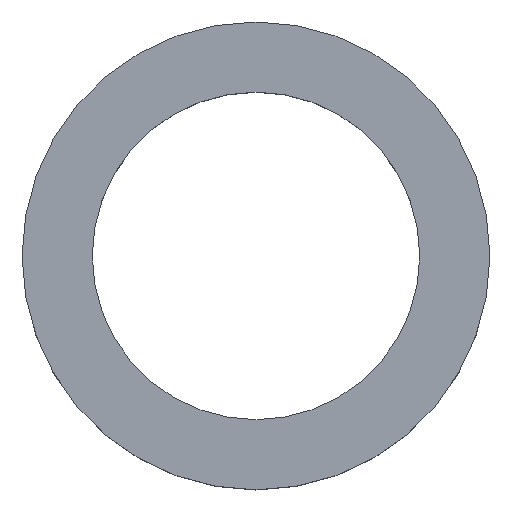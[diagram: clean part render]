
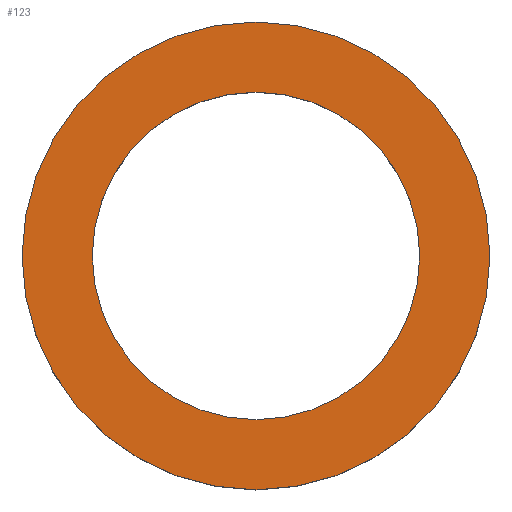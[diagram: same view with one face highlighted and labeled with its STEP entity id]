
A CAD part, top view. The second image highlights one B-rep face of the part: STEP entity #123.
In plain terms, the highlighted planar face has unit normal (0, 0, 1).
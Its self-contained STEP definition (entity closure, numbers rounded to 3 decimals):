
#39 = EDGE_CURVE('',#40,#40,#42,.T.);
#40 = VERTEX_POINT('',#41);
#41 = CARTESIAN_POINT('',(6.,0.,1.3));
#42 = SURFACE_CURVE('',#43,(#48,#60),.PCURVE_S1.);
#43 = CIRCLE('',#44,6.);
#44 = AXIS2_PLACEMENT_3D('',#45,#46,#47);
#45 = CARTESIAN_POINT('',(0.,0.,1.3));
#46 = DIRECTION('',(0.,0.,1.));
#47 = DIRECTION('',(1.,0.,-0.));
#48 = PCURVE('',#49,#54);
#49 = CYLINDRICAL_SURFACE('',#50,6.);
#50 = AXIS2_PLACEMENT_3D('',#51,#52,#53);
#51 = CARTESIAN_POINT('',(0.,0.,-1.3));
#52 = DIRECTION('',(0.,0.,1.));
#53 = DIRECTION('',(1.,0.,-0.));
#54 = DEFINITIONAL_REPRESENTATION('',(#55),#59);
#55 = LINE('',#56,#57);
#56 = CARTESIAN_POINT('',(0.,2.6));
#57 = VECTOR('',#58,1.);
#58 = DIRECTION('',(1.,0.));
#59 = ( GEOMETRIC_REPRESENTATION_CONTEXT(2) 
PARAMETRIC_REPRESENTATION_CONTEXT() REPRESENTATION_CONTEXT('2D SPACE',''
  ) );
#60 = PCURVE('',#61,#66);
#61 = PLANE('',#62);
#62 = AXIS2_PLACEMENT_3D('',#63,#64,#65);
#63 = CARTESIAN_POINT('',(0.,0.,1.3));
#64 = DIRECTION('',(0.,0.,1.));
#65 = DIRECTION('',(1.,0.,-0.));
#66 = DEFINITIONAL_REPRESENTATION('',(#67),#71);
#67 = CIRCLE('',#68,6.);
#68 = AXIS2_PLACEMENT_2D('',#69,#70);
#69 = CARTESIAN_POINT('',(0.,0.));
#70 = DIRECTION('',(1.,0.));
#71 = ( GEOMETRIC_REPRESENTATION_CONTEXT(2) 
PARAMETRIC_REPRESENTATION_CONTEXT() REPRESENTATION_CONTEXT('2D SPACE',''
  ) );
#123 = ADVANCED_FACE('',(#124,#127),#61,.T.);
#124 = FACE_BOUND('',#125,.T.);
#125 = EDGE_LOOP('',(#126));
#126 = ORIENTED_EDGE('',*,*,#39,.T.);
#127 = FACE_BOUND('',#128,.T.);
#128 = EDGE_LOOP('',(#129));
#129 = ORIENTED_EDGE('',*,*,#130,.F.);
#130 = EDGE_CURVE('',#131,#131,#133,.T.);
#131 = VERTEX_POINT('',#132);
#132 = CARTESIAN_POINT('',(4.2,0.,1.3));
#133 = SURFACE_CURVE('',#134,(#139,#146),.PCURVE_S1.);
#134 = CIRCLE('',#135,4.2);
#135 = AXIS2_PLACEMENT_3D('',#136,#137,#138);
#136 = CARTESIAN_POINT('',(0.,0.,1.3));
#137 = DIRECTION('',(0.,0.,1.));
#138 = DIRECTION('',(1.,0.,-0.));
#139 = PCURVE('',#61,#140);
#140 = DEFINITIONAL_REPRESENTATION('',(#141),#145);
#141 = CIRCLE('',#142,4.2);
#142 = AXIS2_PLACEMENT_2D('',#143,#144);
#143 = CARTESIAN_POINT('',(0.,0.));
#144 = DIRECTION('',(1.,0.));
#145 = ( GEOMETRIC_REPRESENTATION_CONTEXT(2) 
PARAMETRIC_REPRESENTATION_CONTEXT() REPRESENTATION_CONTEXT('2D SPACE',''
  ) );
#146 = PCURVE('',#147,#152);
#147 = CYLINDRICAL_SURFACE('',#148,4.2);
#148 = AXIS2_PLACEMENT_3D('',#149,#150,#151);
#149 = CARTESIAN_POINT('',(0.,0.,-2.3));
#150 = DIRECTION('',(0.,0.,1.));
#151 = DIRECTION('',(1.,0.,-0.));
#152 = DEFINITIONAL_REPRESENTATION('',(#153),#157);
#153 = LINE('',#154,#155);
#154 = CARTESIAN_POINT('',(0.,3.6));
#155 = VECTOR('',#156,1.);
#156 = DIRECTION('',(1.,0.));
#157 = ( GEOMETRIC_REPRESENTATION_CONTEXT(2) 
PARAMETRIC_REPRESENTATION_CONTEXT() REPRESENTATION_CONTEXT('2D SPACE',''
  ) );
